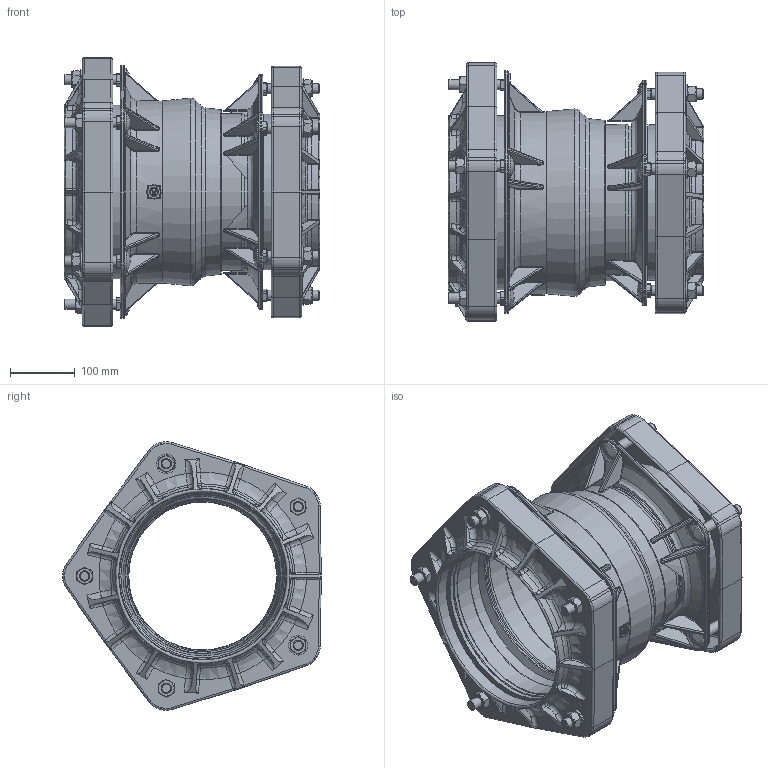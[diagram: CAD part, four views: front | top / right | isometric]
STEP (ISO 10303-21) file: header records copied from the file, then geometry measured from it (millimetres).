
FILE_DESCRIPTION((''),'2;1');
FILE_NAME('P:\Fastrack\54361_VIKING JOHNSON 3D\ULTRAGRIP\Component Parts\Components Built up\Stepped Coupling Assembly\175-200MM-UltraGrip-Stepped-Coupling-Assembly.stp','2012-05-03T11:26:29',('dcole'),(''),'Autodesk Inventor 2008','Autodesk Inventor 2008','');
FILE_SCHEMA(('AUTOMOTIVE_DESIGN { 1 0 10303 214 1 1 1 1 }'));
Length unit declared in the file: millimetre
Products named in the file (2): 175-200MM-UltraGrip-Stepped-Coupling-Assembly; 175-200MM-UltraGrip-Stepped-Coupling-Assembly_5
Assembly tree (1 placements, depth 2):
  175-200MM-UltraGrip-Stepped-Coupling-Assembly
    175-200MM-UltraGrip-Stepped-Coupling-Assembly_5
Bounding box: 394.58 x 398.7 x 414.55 mm (x, y, z)
Surface area: 1388258.9 mm2 (no closed solid volume)
Topology: 0 solids, 1 shells, 2420 faces, 6227 edges, 3862 vertices
Faces by surface type: bspline 807, plane 659, cylinder 592, cone 245, torus 117
Full cylindrical faces by diameter (mm): 13 x1, 15.7 x20, 16 x10, 30 x7, 35.2 x10, 228 x1, 230 x4, 240 x1, 257 x1, 259 x4, 268 x1
Entity records: 133391 total; most frequent: CARTESIAN_POINT 77121, ORIENTED_EDGE 12042, DIRECTION 9977, EDGE_CURVE 6021, AXIS2_PLACEMENT_3D 3975, VERTEX_POINT 3796, EDGE_LOOP 2629, STYLED_ITEM 2418
